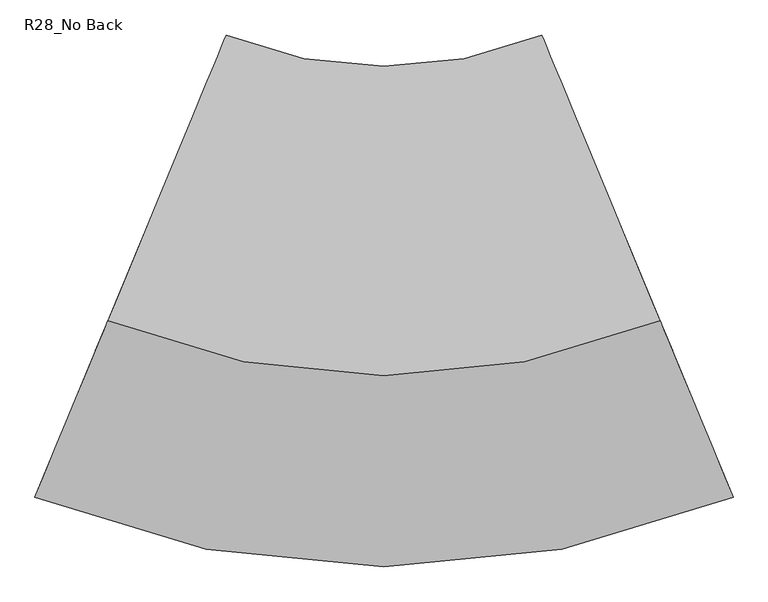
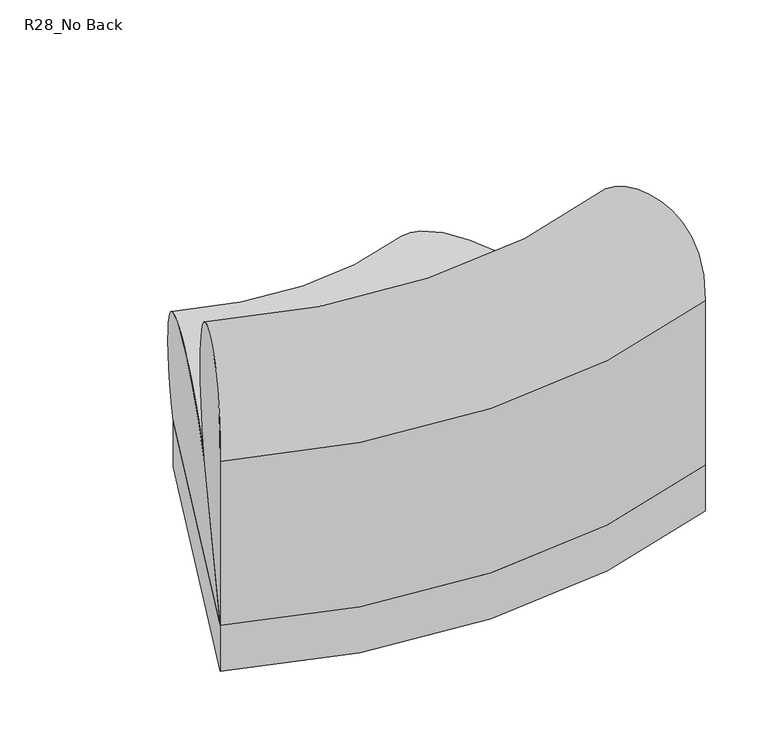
"""IFC4 building model written with IfcOpenShell, lengths in millimetres: furniture geometry, Memo_Candy_CurveInside_R28 : R28_No Back."""

from ifc_helpers import new_model, si_unit, point, frame, frame_2d, origin, origin_with_axes, place, context, project, spatial, polyline, circle_curve, ellipse_curve, trimmed, segment, composite_curve, outline, extrude, source, transform, mapped, element, save
from ifc_brep_helpers import plane_surface, cylinder_surface, revolved_surface, spline_curve, advanced_brep


def r28_no_back_1175cd47(model_context):
    return source(origin(), model_context, "Body", "SolidModel", [
        advanced_brep(
        [(-602.6498693, -280.1754878, 130.8862), (-602.6498693, -280.1754878, 562.6862), (-500.3233143, -33.1373309, 386.6180112), (-500.175361, -32.7801402, 382.770933), (602.6498693, -280.1754878, 130.8862), (500.175361, -32.7801402, 382.770933), (500.3233143, -33.1373309, 386.6180112), (602.6498693, -280.1754878, 562.6862)],
        [
            (0, 1),
            (1, 2, spline_curve(3, [(-602.6498693, -280.1754878, 562.6862), (-602.6498693, -280.1754878, 709.516352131), (-579.827297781, -225.076926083, 756.110862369), (-531.494348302, -108.390863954, 789.248467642), (-505.955313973, -46.734180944, 768.908542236), (-478.027686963, 20.689074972, 674.263665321), (-474.14745923, 30.056773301, 603.825037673), (-480.797270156, 14.002709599, 487.129586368), (-487.821198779, -2.954554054, 439.369212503), (-500.3233143, -33.1373309, 386.6180112)], [4, 2, 2, 2, 4], [0.0, 0.5511378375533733, 1.1606492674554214, 1.727611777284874, 2.146168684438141])),
            (2, 3, circle_curve(frame((-499.2903487, -30.6435315, 384.9463138), z_axis=(0.9238795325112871, -0.38268343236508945, 0.0), x_axis=(-0.38268343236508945, -0.9238795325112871, 0.0)), 3.175)),
            (3, 0),
            (4, 5),
            (5, 6, circle_curve(frame((499.2903487, -30.6435315, 384.9463138), z_axis=(-0.9238795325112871, -0.38268343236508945, 0.0), x_axis=(0.38268343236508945, -0.9238795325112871, 0.0)), 3.175)),
            (6, 7, spline_curve(3, [(500.3233143, -33.1373309, 386.6180112), (487.821198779, -2.954554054, 439.369212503), (480.797270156, 14.002709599, 487.129586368), (474.14745923, 30.056773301, 603.825037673), (478.027686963, 20.689074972, 674.263665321), (505.955313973, -46.734180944, 768.908542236), (531.494348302, -108.390863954, 789.248467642), (579.827297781, -225.076926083, 756.110862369), (602.6498693, -280.1754878, 709.516352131), (602.6498693, -280.1754878, 562.6862)], [4, 2, 2, 2, 4], [0.0, 0.4185569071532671, 0.9855194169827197, 1.5950308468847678, 2.146168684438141])),
            (7, 4),
            (4, 0, circle_curve(frame((0.0, 1174.75, 130.8862), z_axis=(0.0, 0.0, -1.0), x_axis=(-0.38268343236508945, -0.9238795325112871, 0.0)), 1574.8)),
            (3, 5, circle_curve(frame((0.0, 1174.75, 382.770933), z_axis=(0.0, 0.0, 1.0), x_axis=(-0.38268343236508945, -0.9238795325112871, 0.0)), 1307.0212053)),
            (2, 6, circle_curve(frame((0.0, 1174.75, 386.6180112), z_axis=(0.0, 0.0, 1.0), x_axis=(-0.38268343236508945, -0.9238795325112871, 0.0)), 1307.4078258)),
            (1, 7, circle_curve(frame((0.0, 1174.75, 562.6862), z_axis=(0.0, 0.0, 1.0), x_axis=(-0.38268343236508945, -0.9238795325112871, 0.0)), 1574.8)),
        ],
        [
            plane_surface(frame((0.0, 1174.75, -101.6), z_axis=(-0.923879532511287, 0.3826834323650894, 0.0), x_axis=(-0.3826834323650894, -0.923879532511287, 0.0))),
            plane_surface(frame((0.0, 1174.75, -101.6), z_axis=(0.923879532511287, 0.3826834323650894, 0.0), x_axis=(0.3826834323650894, -0.923879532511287, 0.0))),
            revolved_surface(polyline([(-500.175361, -32.7801402, 382.770933), (-602.6498693, -280.1754878, 130.8862)]), (0.0, 1174.75, -101.6), (0.0, 0.0, 1.0)),
            revolved_surface(trimmed(ellipse_curve(frame((-499.2903487, -30.6435315, 384.9463138), z_axis=(0.9238795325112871, -0.38268343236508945, 0.0), x_axis=(-0.38268343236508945, -0.9238795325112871, 0.0)), 3.175, 3.175), [point((-500.3233143, -33.1373309, 386.6180112))], [point((-500.175361, -32.7801402, 382.770933))], True, "CARTESIAN"), (0.0, 1174.75, -101.6), (0.0, 0.0, 1.0)),
            revolved_surface(spline_curve(3, [(-602.6498693, -280.1754878, 562.6862), (-602.6498693, -280.1754878, 709.516352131), (-579.827297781, -225.076926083, 756.110862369), (-531.494348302, -108.390863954, 789.248467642), (-505.955313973, -46.734180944, 768.908542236), (-478.027686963, 20.689074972, 674.263665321), (-474.14745923, 30.056773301, 603.825037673), (-480.797270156, 14.002709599, 487.129586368), (-487.821198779, -2.954554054, 439.369212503), (-500.3233143, -33.1373309, 386.6180112)], [4, 2, 2, 2, 4], [0.0, 0.5511378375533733, 1.1606492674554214, 1.727611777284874, 2.146168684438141]), (0.0, 1174.75, -101.6), (0.0, 0.0, 1.0)),
            cylinder_surface(frame((0.0, 1174.75, -101.6), z_axis=(0.0, 0.0, 1.0), x_axis=(-0.38268343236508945, -0.9238795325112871, 0.0)), 1574.8),
        ],
        [
            (0, [[1, 2, 3, 4]]),
            (1, [[5, 6, 7, 8]]),
            (2, [[-5, 9, -4, 10]]),
            (3, [[-6, -10, -3, 11]]),
            (4, [[-7, -11, -2, 12]]),
            (5, [[-8, -12, -1, -9]]),
        ],
    ),
        advanced_brep(
        [(-602.6498693, -280.1754878, 130.8862), (-500.175361, -32.7801402, 382.770933), (-498.6241946, -29.0352931, 382.2910487), (-498.1095318, -27.7927873, 383.1727272), (-306.1850142, 435.553986, 130.8862), (602.6498693, -280.1754878, 130.8862), (306.1850142, 435.553986, 130.8862), (498.1095318, -27.7927873, 383.1727272), (498.6241946, -29.0352931, 382.2910487), (500.175361, -32.7801402, 382.770933)],
        [
            (0, 1),
            (1, 2, circle_curve(frame((-499.2903487, -30.6435315, 384.9463138), z_axis=(0.9238795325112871, -0.38268343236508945, 0.0), x_axis=(-0.38268343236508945, -0.9238795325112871, 0.0)), 3.175)),
            (2, 3),
            (3, 4, spline_curve(3, [(-498.1095318, -27.7927873, 383.1727272), (-467.382238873, 46.389460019, 435.812236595), (-424.808393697, 149.171814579, 449.084914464), (-354.290543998, 319.416963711, 454.422655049), (-328.653768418, 381.309614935, 443.81214514), (-288.783539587, 477.564862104, 393.569418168), (-273.53242287, 514.384314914, 357.685536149), (-271.191507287, 520.035785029, 240.606468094), (-278.893552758, 501.44140235, 170.417318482), (-306.1850142, 435.553986, 130.8862)], [4, 2, 2, 2, 4], [0.0, 0.5700178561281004, 1.2070229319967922, 1.7653111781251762, 2.2072085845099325])),
            (4, 0),
            (5, 6),
            (6, 7, spline_curve(3, [(306.1850142, 435.553986, 130.8862), (278.893552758, 501.44140235, 170.417318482), (271.191507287, 520.035785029, 240.606468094), (273.53242287, 514.384314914, 357.685536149), (288.783539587, 477.564862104, 393.569418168), (328.653768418, 381.309614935, 443.81214514), (354.290543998, 319.416963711, 454.422655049), (424.808393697, 149.171814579, 449.084914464), (467.382238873, 46.389460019, 435.812236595), (498.1095318, -27.7927873, 383.1727272)], [4, 2, 2, 2, 4], [0.0, 0.4418974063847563, 1.0001856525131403, 1.637190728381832, 2.2072085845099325])),
            (7, 8),
            (8, 9, circle_curve(frame((499.2903487, -30.6435315, 384.9463138), z_axis=(-0.9238795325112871, -0.38268343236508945, 0.0), x_axis=(0.38268343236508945, -0.9238795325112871, 0.0)), 3.175)),
            (9, 5),
            (5, 0, circle_curve(frame((0.0, 1174.75, 130.8862), z_axis=(0.0, 0.0, -1.0), x_axis=(-0.38268343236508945, -0.9238795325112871, 0.0)), 1574.8)),
            (4, 6, circle_curve(frame((0.0, 1174.75, 130.8862), z_axis=(0.0, 0.0, 1.0), x_axis=(-0.38268343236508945, -0.9238795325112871, 0.0)), 800.1)),
            (3, 7, circle_curve(frame((0.0, 1174.75, 383.1727272), z_axis=(0.0, 0.0, 1.0), x_axis=(-0.38268343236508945, -0.9238795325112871, 0.0)), 1301.6229335)),
            (2, 8, circle_curve(frame((0.0, 1174.75, 382.2910487), z_axis=(0.0, 0.0, 1.0), x_axis=(-0.38268343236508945, -0.9238795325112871, 0.0)), 1302.9678121)),
            (1, 9, circle_curve(frame((0.0, 1174.75, 382.770933), z_axis=(0.0, 0.0, 1.0), x_axis=(-0.38268343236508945, -0.9238795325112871, 0.0)), 1307.0212053)),
        ],
        [
            plane_surface(frame((0.0, 1174.75, -173.9138), z_axis=(-0.923879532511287, 0.3826834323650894, 0.0), x_axis=(-0.3826834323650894, -0.923879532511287, 0.0))),
            plane_surface(frame((0.0, 1174.75, -173.9138), z_axis=(0.923879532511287, 0.3826834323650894, 0.0), x_axis=(0.3826834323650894, -0.923879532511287, 0.0))),
            plane_surface(frame((0.0, 1174.75, 130.8862), z_axis=(0.0, 0.0, -1.0), x_axis=(-0.3826834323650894, -0.923879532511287, 0.0))),
            revolved_surface(spline_curve(3, [(-498.1095318, -27.7927873, 383.1727272), (-467.382238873, 46.389460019, 435.812236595), (-424.808393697, 149.171814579, 449.084914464), (-354.290543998, 319.416963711, 454.422655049), (-328.653768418, 381.309614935, 443.81214514), (-288.783539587, 477.564862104, 393.569418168), (-273.53242287, 514.384314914, 357.685536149), (-271.191507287, 520.035785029, 240.606468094), (-278.893552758, 501.44140235, 170.417318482), (-306.1850142, 435.553986, 130.8862)], [4, 2, 2, 2, 4], [0.0, 0.5700178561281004, 1.2070229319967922, 1.7653111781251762, 2.2072085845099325]), (0.0, 1174.75, -173.9138), (0.0, 0.0, 1.0)),
            revolved_surface(polyline([(-498.6241946, -29.0352931, 382.2910487), (-498.1095318, -27.7927873, 383.1727272)]), (0.0, 1174.75, -173.9138), (0.0, 0.0, 1.0)),
            revolved_surface(trimmed(ellipse_curve(frame((-499.2903487, -30.6435315, 384.9463138), z_axis=(0.9238795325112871, -0.38268343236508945, 0.0), x_axis=(-0.38268343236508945, -0.9238795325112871, 0.0)), 3.175, 3.175), [point((-500.175361, -32.7801402, 382.770933))], [point((-498.6241946, -29.0352931, 382.2910487))], True, "CARTESIAN"), (0.0, 1174.75, -173.9138), (0.0, 0.0, 1.0)),
            revolved_surface(polyline([(-602.6498693, -280.1754878, 130.8862), (-500.175361, -32.7801402, 382.770933)]), (0.0, 1174.75, -173.9138), (0.0, 0.0, 1.0)),
        ],
        [
            (0, [[1, 2, 3, 4, 5]]),
            (1, [[6, 7, 8, 9, 10]]),
            (2, [[-6, 11, -5, 12]]),
            (3, [[-7, -12, -4, 13]]),
            (4, [[-8, -13, -3, 14]]),
            (5, [[-9, -14, -2, 15]]),
            (6, [[-10, -15, -1, -11]]),
        ],
    ),
        extrude(outline(composite_curve([segment(trimmed(circle_curve(frame_2d((-529.9996222, -254.1224228)), 14.2875), [point((-544.2871222, -254.1224228))], [point((-515.7121222, -254.1224228))], False, "CARTESIAN"), True, "CONTINUOUS"), segment(trimmed(circle_curve(frame_2d((-529.9996222, -254.1224228)), 14.2875), [point((-515.7121222, -254.1224228))], [point((-544.2871222, -254.1224228))], False, "CARTESIAN"), True, "CONTINUOUS")], self_intersect=False)), origin_with_axes(), (0.0, 0.0, 1.0), 10.2362),
        extrude(outline(composite_curve([segment(trimmed(circle_curve(frame_2d((529.9996222, -254.1224228)), 14.2875), [point((515.7121222, -254.1224228))], [point((544.2871222, -254.1224228))], False, "CARTESIAN"), True, "CONTINUOUS"), segment(trimmed(circle_curve(frame_2d((529.9996222, -254.1224228)), 14.2875), [point((544.2871222, -254.1224228))], [point((515.7121222, -254.1224228))], False, "CARTESIAN"), True, "CONTINUOUS")], self_intersect=False)), origin_with_axes(), (0.0, 0.0, 1.0), 10.2362),
        extrude(outline(composite_curve([segment(trimmed(circle_curve(frame_2d((-272.0903348, 368.5256766)), 14.2875), [point((-286.3778348, 368.5256766))], [point((-257.8028348, 368.5256766))], False, "CARTESIAN"), True, "CONTINUOUS"), segment(trimmed(circle_curve(frame_2d((-272.0903348, 368.5256766)), 14.2875), [point((-257.8028348, 368.5256766))], [point((-286.3778348, 368.5256766))], False, "CARTESIAN"), True, "CONTINUOUS")], self_intersect=False)), origin_with_axes(), (0.0, 0.0, 1.0), 10.2362),
        extrude(outline(composite_curve([segment(trimmed(circle_curve(frame_2d((272.0903348, 368.5256766)), 14.2875), [point((257.8028348, 368.5256766))], [point((286.3778348, 368.5256766))], False, "CARTESIAN"), True, "CONTINUOUS"), segment(trimmed(circle_curve(frame_2d((272.0903348, 368.5256766)), 14.2875), [point((286.3778348, 368.5256766))], [point((257.8028348, 368.5256766))], False, "CARTESIAN"), True, "CONTINUOUS")], self_intersect=False)), origin_with_axes(), (0.0, 0.0, 1.0), 10.2362),
        extrude(outline(composite_curve([segment(trimmed(circle_curve(frame_2d((0.0, -349.25)), 14.2875), [point((-14.2875, -349.25))], [point((14.2875, -349.25))], False, "CARTESIAN"), True, "CONTINUOUS"), segment(trimmed(circle_curve(frame_2d((0.0, -349.25)), 14.2875), [point((14.2875, -349.25))], [point((-14.2875, -349.25))], False, "CARTESIAN"), True, "CONTINUOUS")], self_intersect=False)), origin_with_axes(), (0.0, 0.0, 1.0), 10.2362),
        extrude(outline(composite_curve([segment(polyline([(-602.6498693, -280.1754878), (-306.1850142, 435.553986)]), True, "CONTINUOUS"), segment(trimmed(circle_curve(frame_2d((0.0, 1174.75)), 800.1), [point((-306.1850142, 435.553986))], [point((306.1850142, 435.553986))], True, "CARTESIAN"), True, "CONTINUOUS"), segment(polyline([(306.1850142, 435.553986), (602.6498693, -280.1754878)]), True, "CONTINUOUS"), segment(trimmed(circle_curve(frame_2d((0.0, 1174.75)), 1574.8), [point((602.6498693, -280.1754878))], [point((-602.6498693, -280.1754878))], False, "CARTESIAN"), True, "CONTINUOUS")], self_intersect=False)), frame((0.0, 0.0, 10.2362), z_axis=(0.0, 0.0, 1.0), x_axis=(1.0, 0.0, 0.0)), (0.0, 0.0, 1.0), 120.65),
    ])


if __name__ == "__main__":
    model = new_model("IFC4")
    model_context = context("Model", 3, world=origin())
    ifc_project = project(units=[si_unit("LENGTHUNIT", "METRE", prefix="MILLI")], contexts=[model_context])
    site = spatial("IfcSite", under=ifc_project)
    building = spatial("IfcBuilding", under=site)
    placement = place(None, origin())
    r28_no_back_shape = r28_no_back_1175cd47(model_context)
    element("IfcFurniture", 1, ObjectType="Memo_Candy_CurveInside_R28 : R28_No Back", at=placement, inside=building, context=model_context, shape_type="MappedRepresentation", body=[
        mapped(r28_no_back_shape, transform((0.0, 0.0, 0.0), x_axis=(1.0, 0.0, 0.0), y_axis=(0.0, 1.0, 0.0), z_axis=(0.0, 0.0, 1.0))),
    ])
    save(model, "model.ifc")
